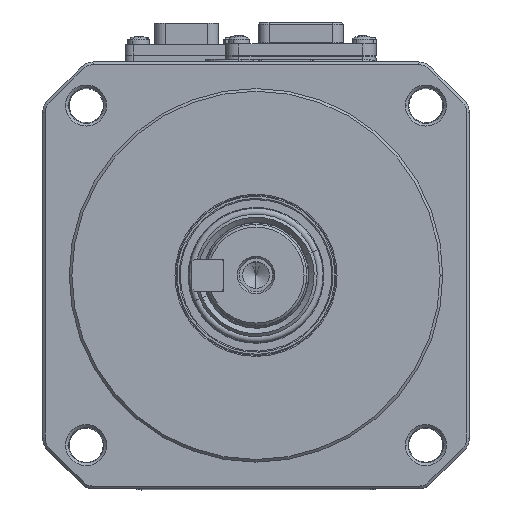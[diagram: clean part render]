
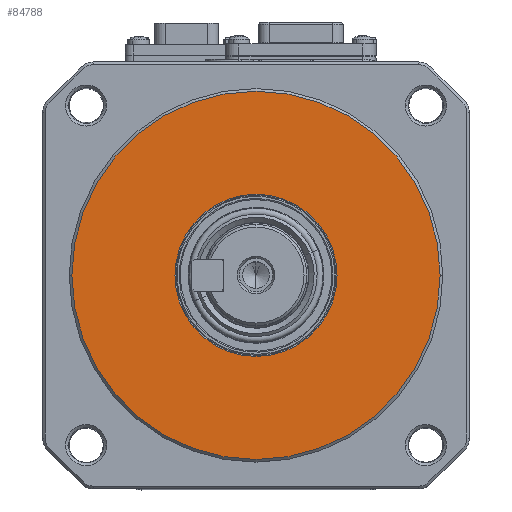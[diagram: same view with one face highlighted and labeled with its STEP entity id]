
A CAD part, top view. The second image highlights one B-rep face of the part: STEP entity #84788.
In plain terms, the highlighted planar face has unit normal (0, 0, 1).
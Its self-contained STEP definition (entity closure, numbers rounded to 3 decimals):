
#4154 = FACE_BOUND ( 'NONE', #56578, .T. ) ;
#7823 = CARTESIAN_POINT ( 'NONE',  ( -34.5, 0., 0. ) ) ;
#9451 = EDGE_CURVE ( 'NONE', #27315, #97888, #62082, .T. ) ;
#11390 = DIRECTION ( 'NONE',  ( 0., 0., -1. ) ) ;
#12603 = CARTESIAN_POINT ( 'NONE',  ( 0., 0., 0. ) ) ;
#12887 = EDGE_CURVE ( 'NONE', #97888, #27315, #70731, .T. ) ;
#17829 = ORIENTED_EDGE ( 'NONE', *, *, #91024, .T. ) ;
#18898 = CIRCLE ( 'NONE', #38924, 15.191 ) ;
#20321 = CARTESIAN_POINT ( 'NONE',  ( 0., 14.7, 0. ) ) ;
#20823 = DIRECTION ( 'NONE',  ( 0., 1., 0. ) ) ;
#21927 = EDGE_CURVE ( 'NONE', #32001, #36376, #70485, .T. ) ;
#22171 = EDGE_LOOP ( 'NONE', ( #89525, #60869 ) ) ;
#22322 = CARTESIAN_POINT ( 'NONE',  ( 0., 0., 0. ) ) ;
#23295 = DIRECTION ( 'NONE',  ( 1., 0., 0. ) ) ;
#24324 = DIRECTION ( 'NONE',  ( 0., 0., 1. ) ) ;
#25591 = AXIS2_PLACEMENT_3D ( 'NONE', #64584, #11390, #72962 ) ;
#25859 = AXIS2_PLACEMENT_3D ( 'NONE', #22322, #46753, #54560 ) ;
#26108 = ORIENTED_EDGE ( 'NONE', *, *, #21927, .T. ) ;
#27315 = VERTEX_POINT ( 'NONE', #7823 ) ;
#29198 = FACE_OUTER_BOUND ( 'NONE', #22171, .T. ) ;
#29467 = CARTESIAN_POINT ( 'NONE',  ( 34.5, 0., 0. ) ) ;
#32001 = VERTEX_POINT ( 'NONE', #101553 ) ;
#36376 = VERTEX_POINT ( 'NONE', #38061 ) ;
#37827 = AXIS2_PLACEMENT_3D ( 'NONE', #20321, #92845, #20823 ) ;
#38061 = CARTESIAN_POINT ( 'NONE',  ( 0., -15.191, 0. ) ) ;
#38441 = CARTESIAN_POINT ( 'NONE',  ( 0., 0., 0. ) ) ;
#38889 = AXIS2_PLACEMENT_3D ( 'NONE', #38441, #24324, #23295 ) ;
#38924 = AXIS2_PLACEMENT_3D ( 'NONE', #12603, #101789, #62015 ) ;
#46753 = DIRECTION ( 'NONE',  ( 0., 0., 1. ) ) ;
#54560 = DIRECTION ( 'NONE',  ( 1., 0., 0. ) ) ;
#56578 = EDGE_LOOP ( 'NONE', ( #26108, #17829 ) ) ;
#60869 = ORIENTED_EDGE ( 'NONE', *, *, #12887, .T. ) ;
#62015 = DIRECTION ( 'NONE',  ( 0., 1., 0. ) ) ;
#62082 = CIRCLE ( 'NONE', #38889, 34.5 ) ;
#64584 = CARTESIAN_POINT ( 'NONE',  ( 0., 0., 0. ) ) ;
#70485 = CIRCLE ( 'NONE', #25591, 15.191 ) ;
#70731 = CIRCLE ( 'NONE', #25859, 34.5 ) ;
#72962 = DIRECTION ( 'NONE',  ( 0., 1., 0. ) ) ;
#84788 = ADVANCED_FACE ( 'NONE', ( #4154, #29198 ), #91823, .F. ) ;
#89525 = ORIENTED_EDGE ( 'NONE', *, *, #9451, .T. ) ;
#91024 = EDGE_CURVE ( 'NONE', #36376, #32001, #18898, .T. ) ;
#91823 = PLANE ( 'NONE',  #37827 ) ;
#92845 = DIRECTION ( 'NONE',  ( 0., 0., -1. ) ) ;
#97888 = VERTEX_POINT ( 'NONE', #29467 ) ;
#101553 = CARTESIAN_POINT ( 'NONE',  ( 0., 15.191, 0. ) ) ;
#101789 = DIRECTION ( 'NONE',  ( 0., 0., -1. ) ) ;
